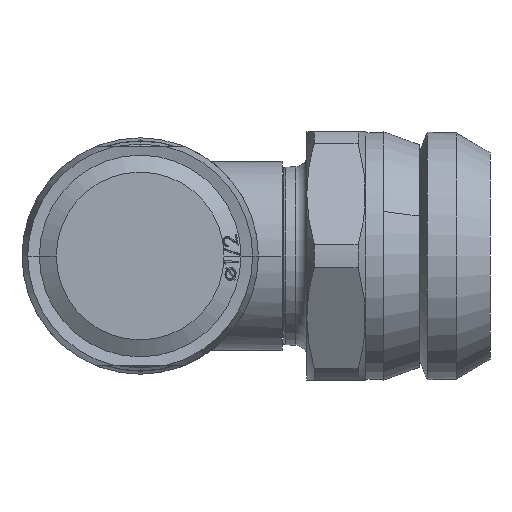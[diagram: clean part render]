
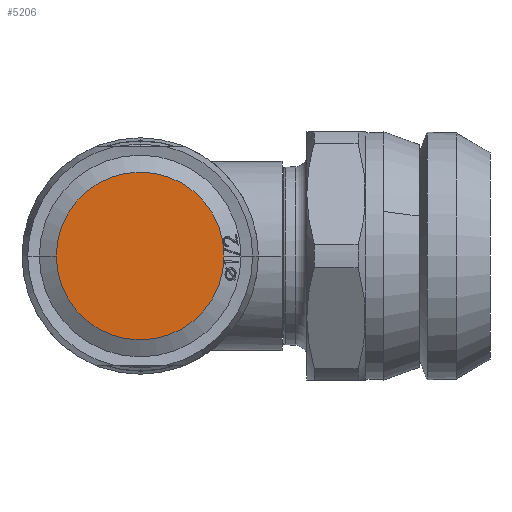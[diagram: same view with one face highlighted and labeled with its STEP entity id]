
A CAD part, left-side view. The second image highlights one B-rep face of the part: STEP entity #5206.
In plain terms, the highlighted planar face has unit normal (-1, 0, 0).
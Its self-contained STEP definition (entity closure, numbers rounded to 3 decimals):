
#231 = AXIS2_PLACEMENT_3D ( 'NONE', #8491, #8492, #8493 ) ;
#1150 = FACE_OUTER_BOUND ( 'NONE', #5354, .T. ) ;
#1922 = CIRCLE ( 'NONE', #231, 7.1 ) ;
#3238 = ORIENTED_EDGE ( 'NONE', *, *, #8133, .T. ) ;
#3239 = ORIENTED_EDGE ( 'NONE', *, *, #3743, .T. ) ;
#3571 = VERTEX_POINT ( 'NONE', #6993 ) ;
#3575 = VERTEX_POINT ( 'NONE', #6997 ) ;
#3743 = EDGE_CURVE ( 'NONE', #3571, #3575, #1922, .T. ) ;
#5206 = ADVANCED_FACE ( 'NONE', ( #1150 ), #7733, .F. ) ;
#5354 = EDGE_LOOP ( 'NONE', ( #3238, #3239 ) ) ;
#5473 = CARTESIAN_POINT ( 'NONE',  ( -30.7, 0., 0. ) ) ;
#5474 = DIRECTION ( 'NONE',  ( -1., 0., 0. ) ) ;
#5475 = DIRECTION ( 'NONE',  ( 0., 1., 0. ) ) ;
#6993 = CARTESIAN_POINT ( 'NONE',  ( -30.7, 7.1, 0. ) ) ;
#6997 = CARTESIAN_POINT ( 'NONE',  ( -30.7, -7.1, 0. ) ) ;
#7732 = CARTESIAN_POINT ( 'NONE',  ( -30.7, -6.789, 0. ) ) ;
#7733 = PLANE ( 'NONE',  #8744 ) ;
#7736 = DIRECTION ( 'NONE',  ( 1., 0., 0. ) ) ;
#7737 = DIRECTION ( 'NONE',  ( 0., -1., 0. ) ) ;
#8133 = EDGE_CURVE ( 'NONE', #3575, #3571, #9876, .T. ) ;
#8491 = CARTESIAN_POINT ( 'NONE',  ( -30.7, 0., 0. ) ) ;
#8492 = DIRECTION ( 'NONE',  ( -1., 0., 0. ) ) ;
#8493 = DIRECTION ( 'NONE',  ( 0., 1., 0. ) ) ;
#8744 = AXIS2_PLACEMENT_3D ( 'NONE', #7732, #7736, #7737 ) ;
#8791 = AXIS2_PLACEMENT_3D ( 'NONE', #5473, #5474, #5475 ) ;
#9876 = CIRCLE ( 'NONE', #8791, 7.1 ) ;
